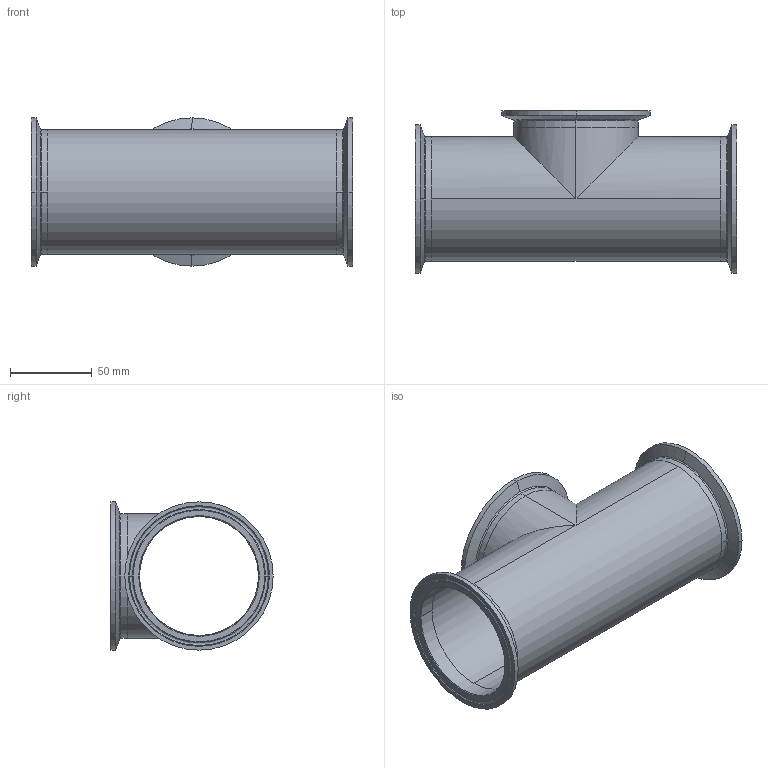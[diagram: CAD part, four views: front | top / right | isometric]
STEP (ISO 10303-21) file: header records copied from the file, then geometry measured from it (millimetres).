
FILE_DESCRIPTION (( 'STEP AP214' ), '1' );
FILE_NAME ('TEG7S6L3.0-...STEP', '2016-05-24T12:27:00', ( 'eran' ), ( '' ), 'SwSTEP 2.0', 'SolidWorks 2016', '' );
FILE_SCHEMA (( 'AUTOMOTIVE_DESIGN' ));
Length unit declared in the file: inch
Products named in the file (1): TEG7S6L3.0-..
Bounding box: 196.8 x 99.45 x 90.91 mm (x, y, z)
Volume: 101575.6 mm3; surface area: 109333.1 mm2
Topology: 4 solids, 4 shells, 88 faces, 220 edges, 142 vertices
Faces by surface type: bspline 30, cylinder 28, cone 18, plane 12
Entity records: 4838 total; most frequent: CARTESIAN_POINT 2665, DIRECTION 466, ORIENTED_EDGE 440, EDGE_CURVE 220, AXIS2_PLACEMENT_3D 209, CIRCLE 150, VERTEX_POINT 142, EDGE_LOOP 100
